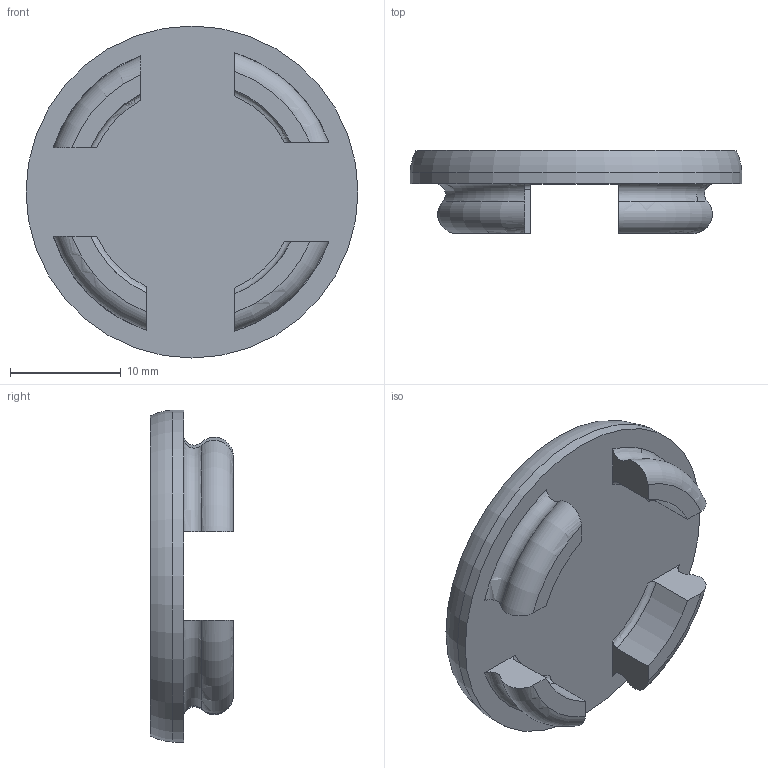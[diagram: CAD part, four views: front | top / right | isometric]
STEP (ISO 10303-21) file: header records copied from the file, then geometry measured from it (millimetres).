
FILE_DESCRIPTION(/* description */ (''),/* implementation_level */ '2;1');
FILE_NAME(/* name */ 'E:\Tomas\Dokument\Inventor\ChokeKnob\ChokeKnobCoverDualC.stp',/* time_stamp */ '2022-02-21T12:45:11+01:00',/* author */ ('Tomas & Helena'),/* organization */ (''),/* preprocessor_version */ 'ST-DEVELOPER v18.1',/* originating_system */ 'Autodesk Inventor 2021',/* authorisation */ '');
FILE_SCHEMA (('AUTOMOTIVE_DESIGN { 1 0 10303 214 3 1 1 }'));
Length unit declared in the file: millimetre
Products named in the file (1): ChokeKnobCoverDualC
Bounding box: 30 x 7.5 x 30 mm (x, y, z)
Volume: 2475.9 mm3; surface area: 2323.8 mm2
Topology: 1 solids, 1 shells, 98 faces, 258 edges, 172 vertices
Faces by surface type: plane 64, bspline 16, torus 13, cylinder 5
Full cylindrical faces by diameter (mm): 30 x1
Entity records: 3515 total; most frequent: CARTESIAN_POINT 1089, ORIENTED_EDGE 516, DIRECTION 397, EDGE_CURVE 258, LINE 173, VECTOR 173, VERTEX_POINT 172, AXIS2_PLACEMENT_3D 112
